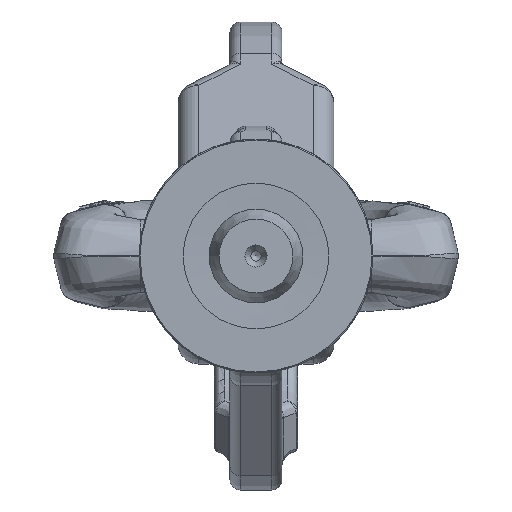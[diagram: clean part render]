
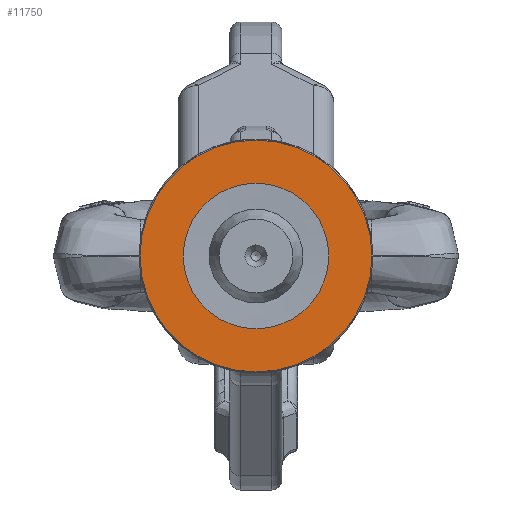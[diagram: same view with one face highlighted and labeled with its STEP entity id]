
A CAD part, front view. The second image highlights one B-rep face of the part: STEP entity #11750.
In plain terms, the highlighted planar face has unit normal (0, -1, 0) as drawn and (0, 0, -1) by its records, which use the part's own axes.
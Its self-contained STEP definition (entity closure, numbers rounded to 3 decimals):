
#2556=PLANE('',#12713);
#2768=FACE_BOUND('',#4138,.T.);
#3370=FACE_OUTER_BOUND('',#4137,.T.);
#4137=EDGE_LOOP('',(#10429));
#4138=EDGE_LOOP('',(#10430));
#4643=CIRCLE('',#12710,22.3);
#4645=CIRCLE('',#12714,14.);
#5609=VERTEX_POINT('',#32218);
#5611=VERTEX_POINT('',#32224);
#7259=EDGE_CURVE('',#5609,#5609,#4643,.T.);
#7261=EDGE_CURVE('',#5611,#5611,#4645,.T.);
#10429=ORIENTED_EDGE('',*,*,#7259,.F.);
#10430=ORIENTED_EDGE('',*,*,#7261,.F.);
#11750=ADVANCED_FACE('',(#3370,#2768),#2556,.F.);
#12710=AXIS2_PLACEMENT_3D('',#32219,#14796,#14797);
#12713=AXIS2_PLACEMENT_3D('',#32223,#14802,#14803);
#12714=AXIS2_PLACEMENT_3D('',#32225,#14804,#14805);
#14796=DIRECTION('center_axis',(0.,0.,1.));
#14797=DIRECTION('ref_axis',(-1.,0.,0.));
#14802=DIRECTION('center_axis',(0.,0.,1.));
#14803=DIRECTION('ref_axis',(1.,0.,0.));
#14804=DIRECTION('center_axis',(0.,0.,-1.));
#14805=DIRECTION('ref_axis',(-1.,0.,0.));
#32218=CARTESIAN_POINT('',(22.3,0.,0.));
#32219=CARTESIAN_POINT('Origin',(0.,0.,0.));
#32223=CARTESIAN_POINT('Origin',(0.,0.,0.));
#32224=CARTESIAN_POINT('',(14.,0.,0.));
#32225=CARTESIAN_POINT('Origin',(0.,0.,0.));
